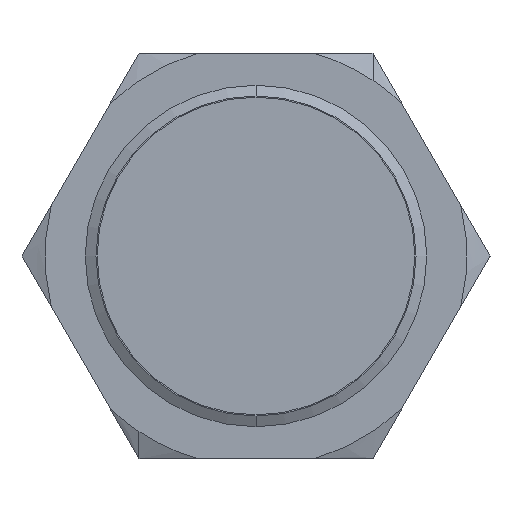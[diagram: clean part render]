
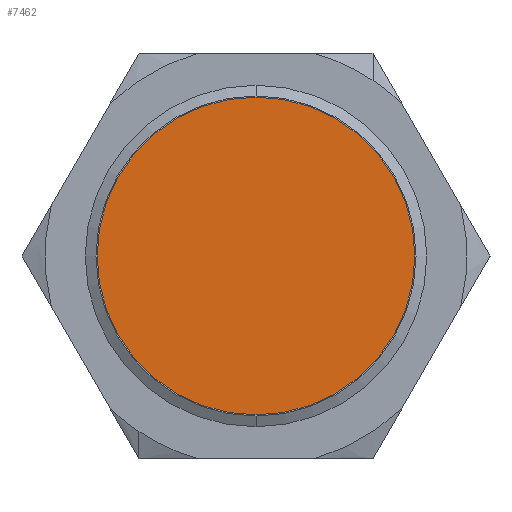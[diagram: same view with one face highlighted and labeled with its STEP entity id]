
A CAD part, left-side view. The second image highlights one B-rep face of the part: STEP entity #7462.
In plain terms, the highlighted planar face has unit normal (-1, 0, 0).
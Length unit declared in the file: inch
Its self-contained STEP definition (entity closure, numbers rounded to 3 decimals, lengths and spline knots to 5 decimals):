
#817 = CARTESIAN_POINT ( 'NONE',  ( 0., 0., 0.55 ) ) ;
#920 = CIRCLE ( 'NONE', #921, 0.55 ) ;
#921 = AXIS2_PLACEMENT_3D ( 'NONE', #924, #925, #926 ) ;
#924 = CARTESIAN_POINT ( 'NONE',  ( 0., 0., 0. ) ) ;
#925 = DIRECTION ( 'NONE',  ( 1., 0., 0. ) ) ;
#926 = DIRECTION ( 'NONE',  ( 0., 0., 1. ) ) ;
#1315 = CARTESIAN_POINT ( 'NONE',  ( 0., 0., -0.55 ) ) ;
#2154 = FACE_OUTER_BOUND ( 'NONE', #7201, .T. ) ;
#2155 = PLANE ( 'NONE',  #2156 ) ;
#2156 = AXIS2_PLACEMENT_3D ( 'NONE', #2157, #2164, #2165 ) ;
#2157 = CARTESIAN_POINT ( 'NONE',  ( 0., 0., 0. ) ) ;
#2164 = DIRECTION ( 'NONE',  ( 1., 0., 0. ) ) ;
#2165 = DIRECTION ( 'NONE',  ( 0., 0., -1. ) ) ;
#2461 = CIRCLE ( 'NONE', #2462, 0.55 ) ;
#2462 = AXIS2_PLACEMENT_3D ( 'NONE', #2463, #2464, #2465 ) ;
#2463 = CARTESIAN_POINT ( 'NONE',  ( 0., 0., 0. ) ) ;
#2464 = DIRECTION ( 'NONE',  ( 1., 0., 0. ) ) ;
#2465 = DIRECTION ( 'NONE',  ( 0., 0., 1. ) ) ;
#5508 = VERTEX_POINT ( 'NONE', #817 ) ;
#5556 = EDGE_CURVE ( 'NONE', #5748, #5508, #920, .T. ) ;
#5748 = VERTEX_POINT ( 'NONE', #1315 ) ;
#6093 = ORIENTED_EDGE ( 'NONE', *, *, #5556, .F. ) ;
#6646 = ORIENTED_EDGE ( 'NONE', *, *, #7889, .F. ) ;
#7201 = EDGE_LOOP ( 'NONE', ( #6646, #6093 ) ) ;
#7462 = ADVANCED_FACE ( 'NONE', ( #2154 ), #2155, .F. ) ;
#7889 = EDGE_CURVE ( 'NONE', #5508, #5748, #2461, .T. ) ;
